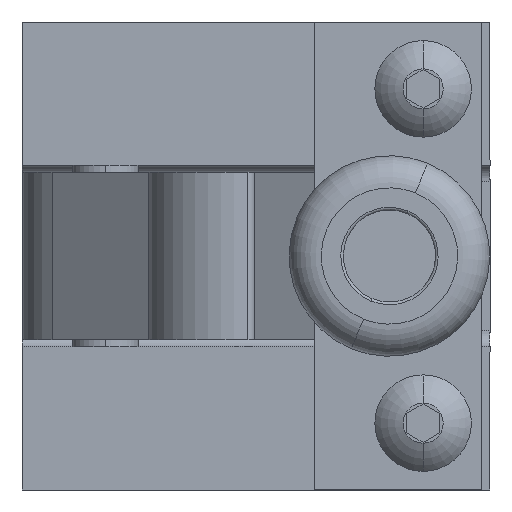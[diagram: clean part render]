
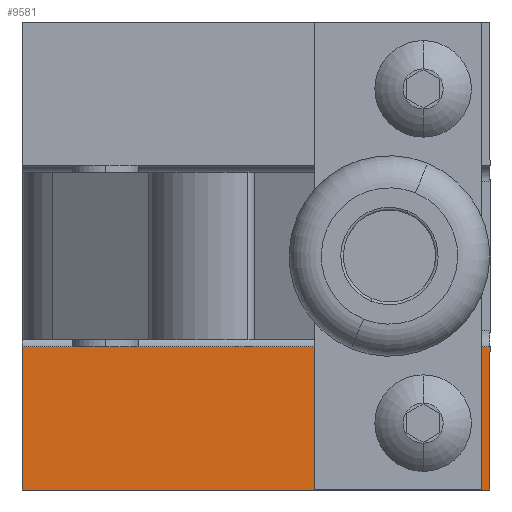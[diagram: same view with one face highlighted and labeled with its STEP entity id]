
A CAD part, left-side view. The second image highlights one B-rep face of the part: STEP entity #9581.
In plain terms, the highlighted planar face has unit normal (-1, 0, 0).
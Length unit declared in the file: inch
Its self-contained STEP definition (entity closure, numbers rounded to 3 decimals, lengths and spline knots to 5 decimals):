
#8886 = ORIENTED_EDGE ( 'NONE', *, *, #9313, .F. ) ;
#9056 = ORIENTED_EDGE ( 'NONE', *, *, #9057, .T. ) ;
#9057 = EDGE_CURVE ( 'NONE', #9571, #9058, #18470, .T. ) ;
#9058 = VERTEX_POINT ( 'NONE', #18466 ) ;
#9217 = ORIENTED_EDGE ( 'NONE', *, *, #9218, .T. ) ;
#9218 = EDGE_CURVE ( 'NONE', #9058, #9506, #18739, .T. ) ;
#9220 = EDGE_LOOP ( 'NONE', ( #9221, #8886 ) ) ;
#9221 = ORIENTED_EDGE ( 'NONE', *, *, #9222, .F. ) ;
#9222 = EDGE_CURVE ( 'NONE', #9311, #9309, #18735, .T. ) ;
#9309 = VERTEX_POINT ( 'NONE', #18586 ) ;
#9311 = VERTEX_POINT ( 'NONE', #18587 ) ;
#9313 = EDGE_CURVE ( 'NONE', #9309, #9311, #18518, .T. ) ;
#9467 = ORIENTED_EDGE ( 'NONE', *, *, #9574, .F. ) ;
#9471 = EDGE_LOOP ( 'NONE', ( #9503, #9467, #9056, #9217 ) ) ;
#9472 = VERTEX_POINT ( 'NONE', #23637 ) ;
#9503 = ORIENTED_EDGE ( 'NONE', *, *, #9504, .F. ) ;
#9504 = EDGE_CURVE ( 'NONE', #9472, #9506, #23666, .T. ) ;
#9506 = VERTEX_POINT ( 'NONE', #23676 ) ;
#9571 = VERTEX_POINT ( 'NONE', #23668 ) ;
#9574 = EDGE_CURVE ( 'NONE', #9571, #9472, #23626, .T. ) ;
#9581 = ADVANCED_FACE ( 'NONE', ( #23489, #23488 ), #23487, .T. ) ;
#18466 = CARTESIAN_POINT ( 'NONE',  ( 7.4273, 3.59026, -1.75 ) ) ;
#18467 = DIRECTION ( 'NONE',  ( 0., -1., 0. ) ) ;
#18468 = VECTOR ( 'NONE', #18467, 39.37008 ) ;
#18469 = CARTESIAN_POINT ( 'NONE',  ( 7.4273, 3.59026, -1.75 ) ) ;
#18470 = LINE ( 'NONE', #18469, #18468 ) ;
#18513 = DIRECTION ( 'NONE',  ( 0., 0., 1. ) ) ;
#18514 = DIRECTION ( 'NONE',  ( -1., 0., 0. ) ) ;
#18515 = CARTESIAN_POINT ( 'NONE',  ( 7.4273, 3.84026, -1.5 ) ) ;
#18516 = AXIS2_PLACEMENT_3D ( 'NONE', #18515, #18514, #18513 ) ;
#18518 = CIRCLE ( 'NONE', #18516, 0.09375 ) ;
#18586 = CARTESIAN_POINT ( 'NONE',  ( 7.4273, 3.84026, -1.59375 ) ) ;
#18587 = CARTESIAN_POINT ( 'NONE',  ( 7.4273, 3.84026, -1.40625 ) ) ;
#18731 = DIRECTION ( 'NONE',  ( 0., 0., 1. ) ) ;
#18732 = DIRECTION ( 'NONE',  ( -1., 0., 0. ) ) ;
#18733 = CARTESIAN_POINT ( 'NONE',  ( 7.4273, 3.84026, -1.5 ) ) ;
#18734 = AXIS2_PLACEMENT_3D ( 'NONE', #18733, #18732, #18731 ) ;
#18735 = CIRCLE ( 'NONE', #18734, 0.09375 ) ;
#18736 = DIRECTION ( 'NONE',  ( 0., 0., 1. ) ) ;
#18737 = VECTOR ( 'NONE', #18736, 39.37008 ) ;
#18738 = CARTESIAN_POINT ( 'NONE',  ( 7.4273, 3.59026, -1.75 ) ) ;
#18739 = LINE ( 'NONE', #18738, #18737 ) ;
#23486 = AXIS2_PLACEMENT_3D ( 'NONE', #23655, #23654, #23653 ) ;
#23487 = PLANE ( 'NONE',  #23486 ) ;
#23488 = FACE_BOUND ( 'NONE', #9220, .T. ) ;
#23489 = FACE_OUTER_BOUND ( 'NONE', #9471, .T. ) ;
#23623 = DIRECTION ( 'NONE',  ( 0., 0., 1. ) ) ;
#23624 = VECTOR ( 'NONE', #23623, 39.37008 ) ;
#23625 = CARTESIAN_POINT ( 'NONE',  ( 7.4273, 5.34026, -1.75 ) ) ;
#23626 = LINE ( 'NONE', #23625, #23624 ) ;
#23637 = CARTESIAN_POINT ( 'NONE',  ( 7.4273, 5.34026, -1.215 ) ) ;
#23653 = DIRECTION ( 'NONE',  ( 0., 0., 1. ) ) ;
#23654 = DIRECTION ( 'NONE',  ( -1., 0., 0. ) ) ;
#23655 = CARTESIAN_POINT ( 'NONE',  ( 7.4273, 3.59026, -1.75 ) ) ;
#23665 = CARTESIAN_POINT ( 'NONE',  ( 7.4273, 3.59026, -1.215 ) ) ;
#23666 = LINE ( 'NONE', #23665, #23678 ) ;
#23668 = CARTESIAN_POINT ( 'NONE',  ( 7.4273, 5.34026, -1.75 ) ) ;
#23676 = CARTESIAN_POINT ( 'NONE',  ( 7.4273, 3.59026, -1.215 ) ) ;
#23677 = DIRECTION ( 'NONE',  ( 0., -1., 0. ) ) ;
#23678 = VECTOR ( 'NONE', #23677, 39.37008 ) ;
